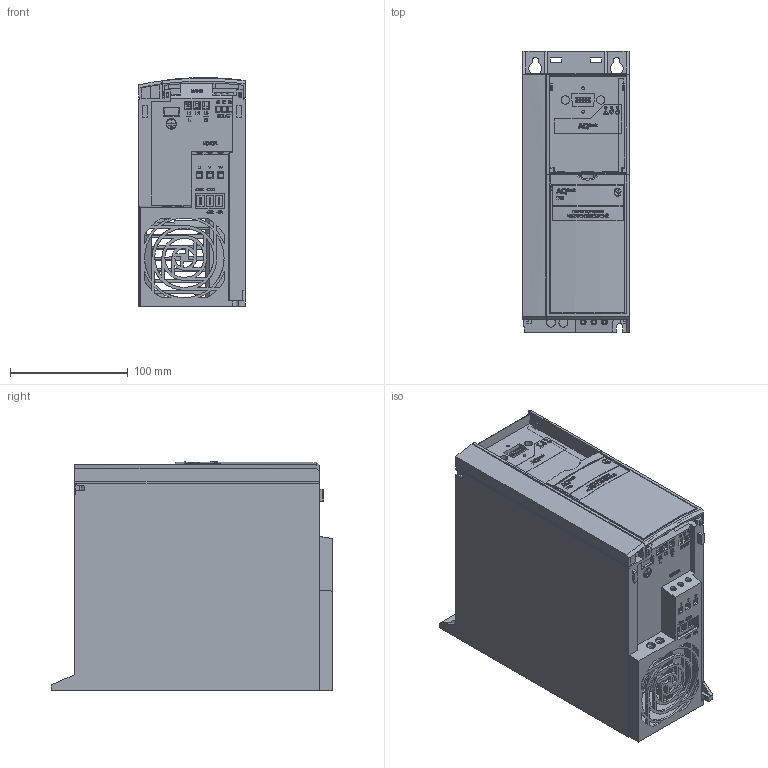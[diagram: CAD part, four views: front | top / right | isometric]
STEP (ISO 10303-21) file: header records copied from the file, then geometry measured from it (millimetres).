
FILE_DESCRIPTION (( 'STEP AP214' ), '1' );
FILE_NAME ('ﾏﾗﾂ (ﾌ3).STEP', '2023-10-24T14:46:30', ( '' ), ( '' ), 'SwSTEP 2.0', 'SolidWorks 2019', '' );
FILE_SCHEMA (( 'AUTOMOTIVE_DESIGN' ));
Length unit declared in the file: millimetre
Products named in the file (1): ﾏﾗﾂ (ﾌ3)
Bounding box: 90 x 238.8 x 193.72 mm (x, y, z)
Volume: 2559439.5 mm3; surface area: 478781.7 mm2
Topology: 267 solids, 276 shells, 6911 faces, 18347 edges, 12174 vertices
Faces by surface type: plane 5590, bspline 948, cylinder 311, cone 53, torus 9
Full cylindrical faces by diameter (mm): 2 x3
Entity records: 266702 total; most frequent: CARTESIAN_POINT 58104, ORIENTED_EDGE 36682, DIRECTION 28527, EDGE_CURVE 18341, VECTOR 14939, LINE 14939, VERTEX_POINT 12174, EDGE_LOOP 7413
